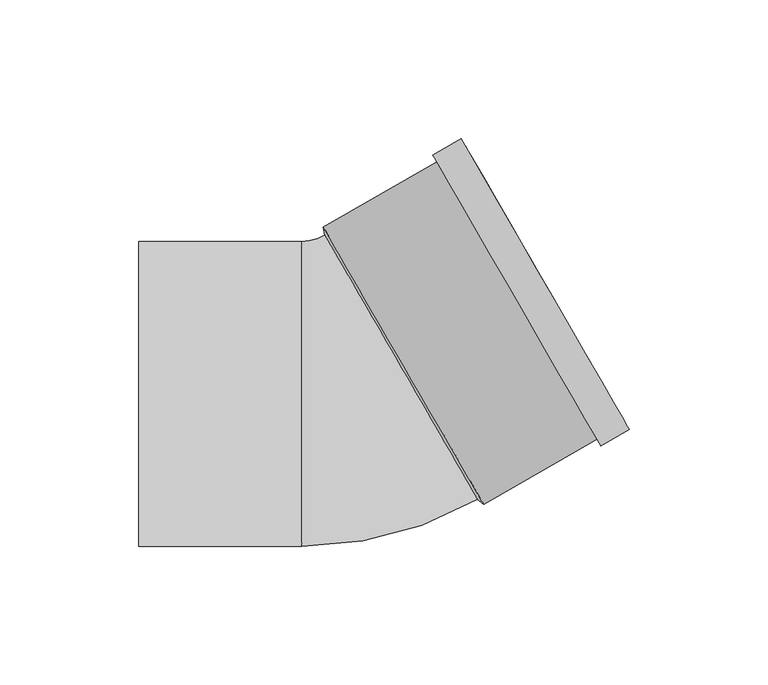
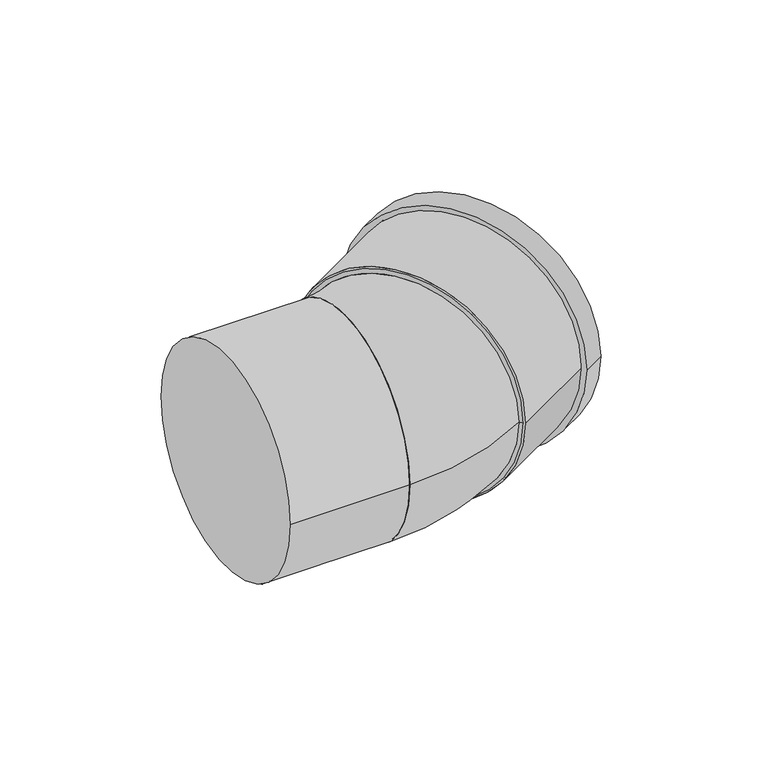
"""IFC4 building model written with IfcOpenShell, lengths in millimetres: pipe fitting geometry, Superdrain SKB Bend : Superdrain SKB Bend."""

from ifc_helpers import new_model, si_unit, point, frame, origin, origin_2d, place, context, project, spatial, polyline, circle_curve, ellipse_curve, trimmed, segment, composite_curve, outline, extrude, source, transform, mapped, element, save
from ifc_brep_helpers import plane_surface, revolved_surface, advanced_brep


def pipe_fitting_7966021f(model_context):
    return source(origin(), model_context, "Body", "SolidModel", [
        advanced_brep(
        [(44.1276878, -38.0313972, 0.0), (-10.8723122, 57.2313972, 0.0), (-19.2, -55.0, 0.0), (-19.2, 55.0, 0.0)],
        [
            (0, 1, circle_curve(frame((16.6276878, 9.6, 0.0), z_axis=(0.8660254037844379, 0.5000000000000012, 0.0), x_axis=(-0.5000000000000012, 0.8660254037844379, 0.0)), 55.0)),
            (1, 0, circle_curve(frame((16.6276878, 9.6, 0.0), z_axis=(0.8660254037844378, 0.5000000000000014, 0.0), x_axis=(-0.5000000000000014, 0.8660254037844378, 0.0)), 55.0)),
            (2, 3, circle_curve(frame((-19.2, 0.0, 0.0), z_axis=(-1.0, 0.0, 0.0), x_axis=(0.0, 1.0, 0.0)), 55.0)),
            (3, 2, circle_curve(frame((-19.2, 0.0, 0.0), z_axis=(-1.0, 0.0, 0.0), x_axis=(0.0, 1.0, 0.0)), 55.0)),
            (3, 1, circle_curve(frame((-19.2, 71.6553755, 0.0), z_axis=(0.0, 0.0, 1.0), x_axis=(1.0, 0.0, 0.0)), 16.6553755)),
            (0, 2, circle_curve(frame((-19.2, 71.6553755, 0.0), z_axis=(0.0, 0.0, -1.0), x_axis=(1.0, 0.0, 0.0)), 126.6553755)),
        ],
        [
            plane_surface(frame((16.6276878, 9.6, 0.0), z_axis=(0.8660254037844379, 0.5000000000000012, 0.0), x_axis=(0.0, 0.0, -1.0))),
            plane_surface(frame((-19.2, 0.0, 0.0), z_axis=(-1.0, 0.0, 0.0), x_axis=(0.0, 0.0, -1.0))),
            revolved_surface(trimmed(ellipse_curve(frame((52.4553755, 71.6553755, 0.0), z_axis=(0.0, -1.0, 0.0), x_axis=(-1.0, 0.0, 0.0)), 55.0, 55.0), [point((-2.5446245, 71.6553755, 0.0))], [point((107.4553755, 71.6553755, 0.0))], True, "CARTESIAN"), (-19.2, 71.6553755, 0.0), (0.0, 0.0, 1.0)),
            revolved_surface(trimmed(ellipse_curve(frame((52.4553755, 71.6553755, 0.0), z_axis=(0.0, -1.0, 0.0), x_axis=(-1.0, 0.0, 0.0)), 55.0, 55.0), [point((107.4553755, 71.6553755, 0.0))], [point((-2.5446245, 71.6553755, 0.0))], True, "CARTESIAN"), (-19.2, 71.6553755, 0.0), (0.0, 0.0, 1.0)),
        ],
        [
            (0, [[1, 2]]),
            (1, [[3, 4]]),
            (2, [[-4, 5, -1, 6]]),
            (3, [[-3, -6, -2, -5]]),
        ],
    ),
        extrude(outline(composite_curve([segment(trimmed(circle_curve(origin_2d(), 57.75), [point((0.0, 57.75))], [point((0.0, -57.75))], False, "CARTESIAN"), True, "CONTINUOUS"), segment(trimmed(circle_curve(origin_2d(), 57.75), [point((0.0, -57.75))], [point((0.0, 57.75))], False, "CARTESIAN"), True, "CONTINUOUS")], self_intersect=False), holes=[composite_curve([segment(trimmed(circle_curve(origin_2d(), 55.0), [point((0.0, 55.0))], [point((0.0, -55.0))], True, "CARTESIAN"), True, "CONTINUOUS"), segment(trimmed(circle_curve(origin_2d(), 55.0), [point((0.0, -55.0))], [point((0.0, 55.0))], True, "CARTESIAN"), True, "CONTINUOUS")], self_intersect=False)]), frame((17.4937132, 10.1, 0.0), z_axis=(0.8660254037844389, 0.49999999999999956, 0.0), x_axis=(0.0, 0.0, 1.0)), (0.0, 0.0, 1.0), 59.0),
        extrude(outline(composite_curve([segment(trimmed(circle_curve(origin_2d(), 60.6375), [point((0.0, -60.6375))], [point((0.0, 60.6375))], False, "CARTESIAN"), True, "CONTINUOUS"), segment(trimmed(circle_curve(origin_2d(), 60.6375), [point((0.0, 60.6375))], [point((0.0, -60.6375))], False, "CARTESIAN"), True, "CONTINUOUS")], self_intersect=False), holes=[composite_curve([segment(trimmed(circle_curve(origin_2d(), 55.0), [point((0.0, -55.0))], [point((0.0, 55.0))], True, "CARTESIAN"), True, "CONTINUOUS"), segment(trimmed(circle_curve(origin_2d(), 55.0), [point((0.0, 55.0))], [point((0.0, -55.0))], True, "CARTESIAN"), True, "CONTINUOUS")], self_intersect=False)]), frame((58.3701122, 33.7, 0.0), z_axis=(0.8660254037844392, 0.49999999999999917, 0.0), x_axis=(0.0, 0.0, 1.0)), (0.0, 0.0, 1.0), 11.8),
        advanced_brep(
        [(46.3687132, -39.9129671, 0.0), (-11.3812868, 60.1129671, 0.0), (44.1276878, -38.0313972, 0.0), (-10.8723122, 57.2313972, 0.0)],
        [
            (0, 1, circle_curve(frame((17.4937132, 10.1, 0.0), z_axis=(0.8660254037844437, 0.4999999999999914, 0.0), x_axis=(0.49999999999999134, -0.8660254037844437, 0.0)), 57.75)),
            (1, 0, circle_curve(frame((17.4937132, 10.1, 0.0), z_axis=(0.8660254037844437, 0.4999999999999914, 0.0), x_axis=(-0.49999999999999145, 0.8660254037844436, 0.0)), 57.75)),
            (2, 3, circle_curve(frame((16.6276878, 9.6, 0.0), z_axis=(-0.8660254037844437, -0.4999999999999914, 0.0), x_axis=(-0.49999999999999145, 0.8660254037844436, 0.0)), 55.0)),
            (3, 2, circle_curve(frame((16.6276878, 9.6, 0.0), z_axis=(-0.8660254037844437, -0.4999999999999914, 0.0), x_axis=(0.49999999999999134, -0.8660254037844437, 0.0)), 55.0)),
            (3, 1),
            (0, 2),
        ],
        [
            plane_surface(frame((17.4937132, 10.1, 0.0), z_axis=(0.8660254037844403, 0.4999999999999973, 0.0), x_axis=(0.0, 0.0, -1.0))),
            plane_surface(frame((16.6276878, 9.6, 0.0), z_axis=(-0.8660254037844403, -0.4999999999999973, 0.0), x_axis=(0.0, 0.0, -1.0))),
            revolved_surface(polyline([(-10.872312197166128, 57.231397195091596, 0.0), (-11.3812868, 60.1129671, 0.0)]), (-0.6928203, -0.4, 0.0), (0.8660254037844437, 0.4999999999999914, 0.0)),
            revolved_surface(polyline([(44.12768782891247, -38.031397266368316, 0.0), (46.368713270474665, -39.912967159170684, 0.0)]), (-0.6928203, -0.4, 0.0), (0.8660254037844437, 0.4999999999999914, 0.0)),
        ],
        [
            (0, [[1, 2]]),
            (1, [[3, 4]]),
            (2, [[-4, 5, -1, 6]]),
            (3, [[-3, -6, -2, -5]]),
        ],
    ),
        extrude(outline(composite_curve([segment(trimmed(circle_curve(origin_2d(), 55.0), [point((-55.0, 0.0))], [point((55.0, 0.0))], False, "CARTESIAN"), True, "CONTINUOUS"), segment(trimmed(circle_curve(origin_2d(), 55.0), [point((55.0, 0.0))], [point((-55.0, 0.0))], False, "CARTESIAN"), True, "CONTINUOUS")], self_intersect=False)), frame((-78.0, 0.0, 0.0), z_axis=(1.0, 0.0, 0.0), x_axis=(0.0, 1.0, 0.0)), (0.0, 0.0, 1.0), 58.8),
    ])


if __name__ == "__main__":
    model = new_model("IFC4")
    model_context = context("Model", 3, world=origin())
    ifc_project = project(units=[si_unit("LENGTHUNIT", "METRE", prefix="MILLI")], contexts=[model_context])
    site = spatial("IfcSite", under=ifc_project)
    building = spatial("IfcBuilding", under=site)
    placement = place(None, origin())
    pipe_fitting_shape = pipe_fitting_7966021f(model_context)
    element("IfcPipeFitting", 1, ObjectType="Superdrain SKB Bend : Superdrain SKB Bend", at=placement, inside=building, context=model_context, shape_type="MappedRepresentation", body=[
        mapped(pipe_fitting_shape, transform((0.0, 0.0, 0.0), x_axis=(1.0, 0.0, 0.0), y_axis=(0.0, 1.0, 0.0), z_axis=(0.0, 0.0, 1.0))),
    ])
    save(model, "model.ifc")
